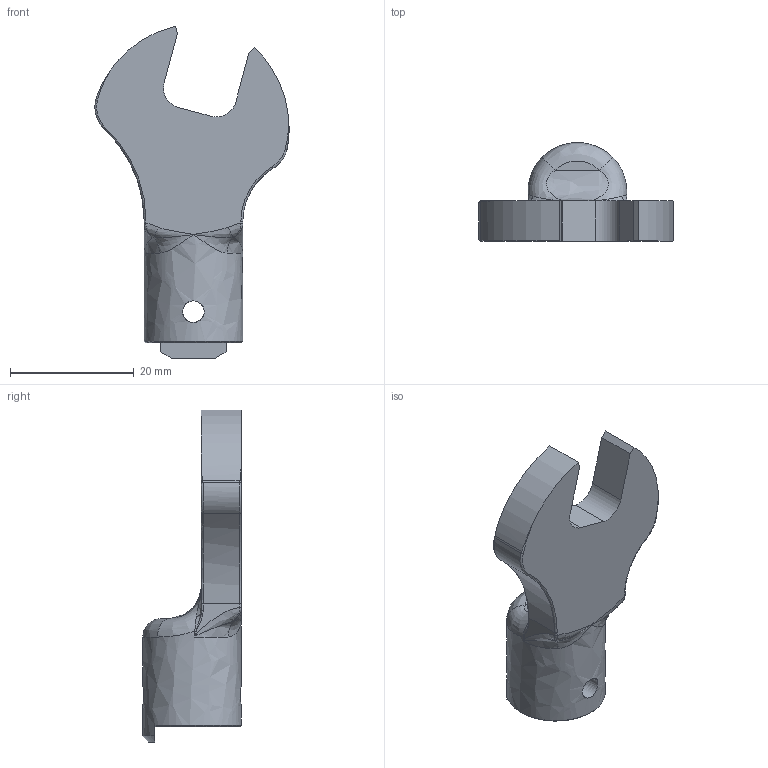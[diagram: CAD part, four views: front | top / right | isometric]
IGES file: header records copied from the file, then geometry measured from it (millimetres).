
Global section: file name: SH10DX12; native system: Autodesk Inventor 2016; preprocessor: unknown; author: Q600; date: 20151029.185604; units: millimetre
Bounding box: 31.46 x 16 x 53.77 mm (x, y, z)
Volume: 6524.1 mm3; surface area: 3778.7 mm2
Topology: 1 solids, 1 shells, 80 faces, 215 edges, 123 vertices
Faces by surface type: bspline 80
